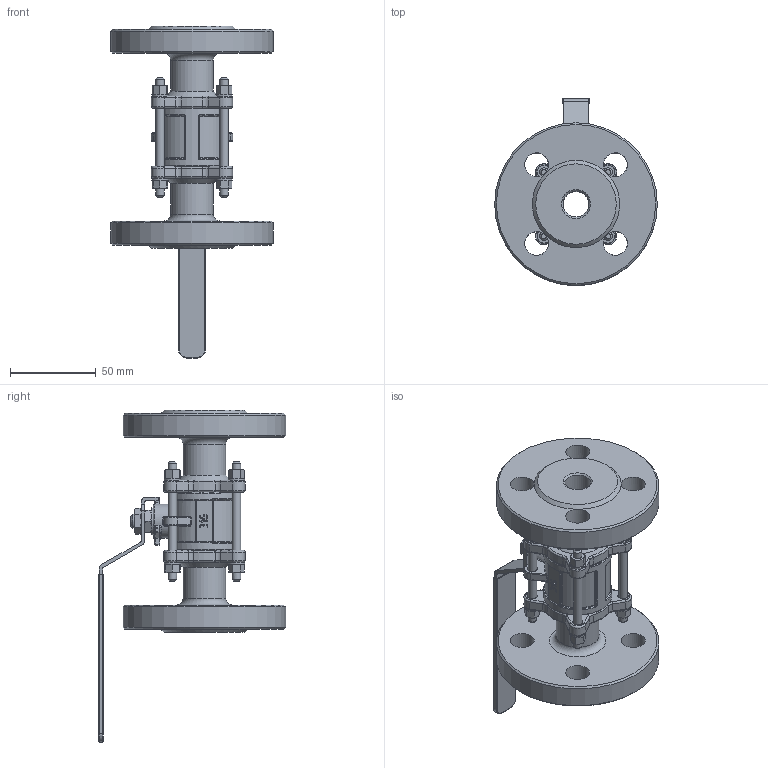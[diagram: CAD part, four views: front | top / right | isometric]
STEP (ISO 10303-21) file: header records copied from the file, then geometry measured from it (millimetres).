
FILE_DESCRIPTION(('STEP AP214'), '1');
FILE_NAME('BV3232P(3pc)-FP-F-H - Êðàí øàðîâîé DN.ru Äó15 Ðó40', '', ('UNSPECIFIED'), ('UNSPECIFIED'), 'C3D Converter', 'C3D Toolkit', '');
FILE_SCHEMA(('AUTOMOTIVE_DESIGN { 1 0 10303 214 3 1 1}'));
Length unit declared in the file: millimetre
Products named in the file (1): BV3232P(3pc)-FP-F-H
Bounding box: 95 x 109.5 x 194 mm (x, y, z)
Volume: 274439.2 mm3; surface area: 71406.8 mm2
Topology: 1 solids, 1 shells, 1547 faces, 3885 edges, 2427 vertices
Faces by surface type: plane 522, extrusion 437, cylinder 235, cone 139, torus 126, bspline 52, sphere 36
Full cylindrical faces by diameter (mm): 5 x12, 5.3 x8, 6 x10, 8 x1, 9.5 x8, 14 x8, 15 x1, 16 x1, 20 x1, 25 x2, 40 x1, 95 x2
Entity records: 61905 total; most frequent: CARTESIAN_POINT 22782, ORIENTED_EDGE 7604, DIRECTION 5926, EDGE_CURVE 3802, VERTEX_POINT 2425, VECTOR 2056, AXIS2_PLACEMENT_3D 1935, EDGE_LOOP 1751
